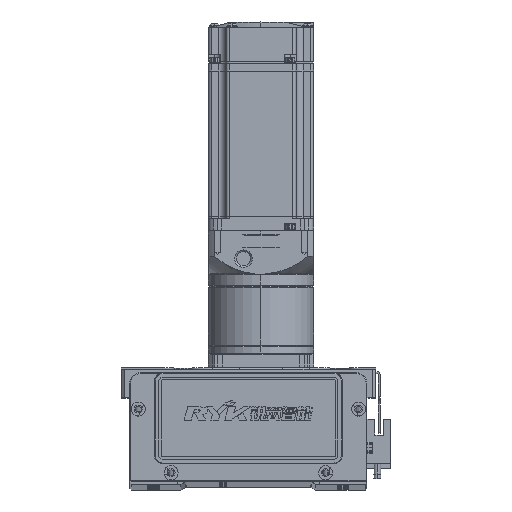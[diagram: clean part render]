
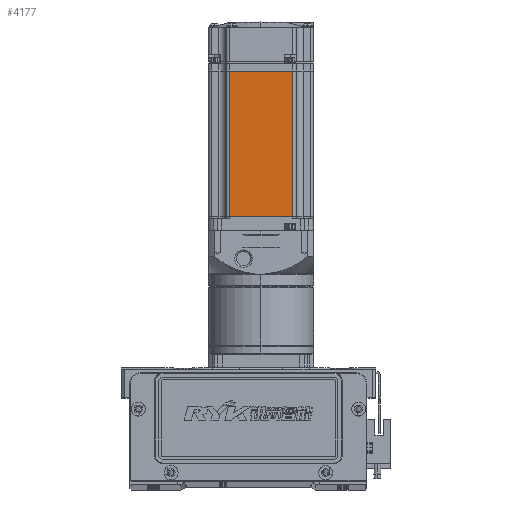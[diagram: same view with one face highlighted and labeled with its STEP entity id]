
A CAD part, top view. The second image highlights one B-rep face of the part: STEP entity #4177.
In plain terms, the highlighted planar face has unit normal (0, 0, 1).
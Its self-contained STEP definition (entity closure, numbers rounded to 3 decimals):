
#3888 = CARTESIAN_POINT ( 'NONE',  ( -90.45, -18., 30. ) ) ;
#4177 = ADVANCED_FACE ( 'NONE', ( #24216 ), #47386, .T. ) ;
#4621 = DIRECTION ( 'NONE',  ( -1., 0., 0. ) ) ;
#4966 = VERTEX_POINT ( 'NONE', #81605 ) ;
#5059 = DIRECTION ( 'NONE',  ( 0., -1., 0. ) ) ;
#5475 = CARTESIAN_POINT ( 'NONE',  ( -6.5, 18., 30. ) ) ;
#6212 = VERTEX_POINT ( 'NONE', #54965 ) ;
#7331 = CARTESIAN_POINT ( 'NONE',  ( -6.5, -25., 30. ) ) ;
#13318 = DIRECTION ( 'NONE',  ( 0., -1., 0. ) ) ;
#15486 = LINE ( 'NONE', #20745, #33048 ) ;
#16083 = LINE ( 'NONE', #24048, #18133 ) ;
#18133 = VECTOR ( 'NONE', #5059, 1000. ) ;
#19113 = VERTEX_POINT ( 'NONE', #21590 ) ;
#20745 = CARTESIAN_POINT ( 'NONE',  ( -90.45, 0., 30. ) ) ;
#21155 = AXIS2_PLACEMENT_3D ( 'NONE', #7331, #73400, #40205 ) ;
#21590 = CARTESIAN_POINT ( 'NONE',  ( -7.75, -18., 30. ) ) ;
#24048 = CARTESIAN_POINT ( 'NONE',  ( -7.75, 0., 30. ) ) ;
#24216 = FACE_OUTER_BOUND ( 'NONE', #80552, .T. ) ;
#24792 = EDGE_CURVE ( 'NONE', #6212, #19113, #16083, .T. ) ;
#32891 = ORIENTED_EDGE ( 'NONE', *, *, #64011, .T. ) ;
#33048 = VECTOR ( 'NONE', #13318, 1000. ) ;
#33495 = DIRECTION ( 'NONE',  ( -1., 0., 0. ) ) ;
#39547 = ORIENTED_EDGE ( 'NONE', *, *, #24792, .F. ) ;
#40205 = DIRECTION ( 'NONE',  ( 1., 0., 0. ) ) ;
#41452 = LINE ( 'NONE', #5475, #78594 ) ;
#47294 = CARTESIAN_POINT ( 'NONE',  ( -6.5, -18., 30. ) ) ;
#47386 = PLANE ( 'NONE',  #21155 ) ;
#52586 = VECTOR ( 'NONE', #33495, 1000. ) ;
#54965 = CARTESIAN_POINT ( 'NONE',  ( -7.75, 18., 30. ) ) ;
#64011 = EDGE_CURVE ( 'NONE', #6212, #4966, #41452, .T. ) ;
#64448 = VERTEX_POINT ( 'NONE', #3888 ) ;
#68402 = ORIENTED_EDGE ( 'NONE', *, *, #71344, .F. ) ;
#71344 = EDGE_CURVE ( 'NONE', #19113, #64448, #75352, .T. ) ;
#71375 = EDGE_CURVE ( 'NONE', #4966, #64448, #15486, .T. ) ;
#73400 = DIRECTION ( 'NONE',  ( 0., 0., 1. ) ) ;
#75352 = LINE ( 'NONE', #47294, #52586 ) ;
#78594 = VECTOR ( 'NONE', #4621, 1000. ) ;
#80239 = ORIENTED_EDGE ( 'NONE', *, *, #71375, .T. ) ;
#80552 = EDGE_LOOP ( 'NONE', ( #39547, #32891, #80239, #68402 ) ) ;
#81605 = CARTESIAN_POINT ( 'NONE',  ( -90.45, 18., 30. ) ) ;
